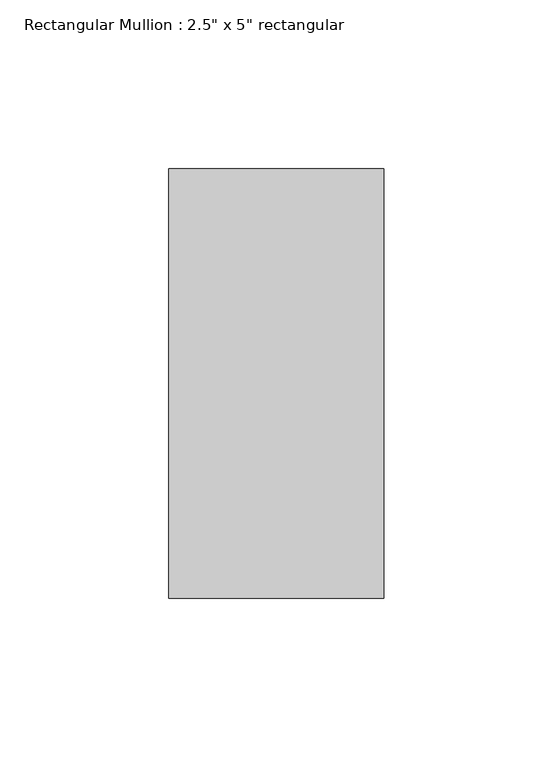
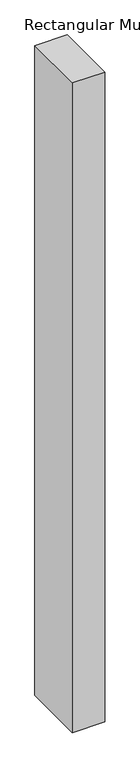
"""IFC4 building model written with IfcOpenShell, lengths in millimetres: member geometry."""

import ifcopenshell
import ifcopenshell.guid

model = None  # the IFC model being written
_history = None  # IfcOwnerHistory: only IFC2X3 demands one
_inside = {}  # id of a spatial element -> (the spatial element, [elements in it])
_under = {}  # id of a project, library or spatial element -> (it, [spatial elements below it])
_declared = {}  # id of a project -> (the project, [libraries it declares])
_typed = {}  # id of a type object -> (the type object, [elements of that type])
_made_of = {}  # id of a material, layer set ... -> (it, [elements and type objects made of it])


def new_model(schema):
    """Start an empty IFC model of exactly this schema.

    Asked for "IFC4X3", IfcOpenShell would pick the latest addendum, in which some entities
    have other attributes; the version numbers below select the first issue.
    IFC2X3 requires an IfcOwnerHistory on every rooted entity: one is made here for all.
    """
    global model, _history
    if schema == "IFC4X3":
        model = ifcopenshell.file(schema_version=(4, 3, 0, 0))
    else:
        model = ifcopenshell.file(schema=schema)
    _inside.clear()
    _under.clear()
    _declared.clear()
    _typed.clear()
    _made_of.clear()
    _history = None
    if model.schema == "IFC2X3":
        org = make("IfcOrganization", Name="unknown")
        user = make(
            "IfcPersonAndOrganization",
            ThePerson=make("IfcPerson", FamilyName="unknown"),
            TheOrganization=org,
        )
        app = make(
            "IfcApplication",
            ApplicationDeveloper=org,
            Version="unknown",
            ApplicationFullName="unknown",
            ApplicationIdentifier="unknown",
        )
        _history = make(
            "IfcOwnerHistory",
            OwningUser=user,
            OwningApplication=app,
            ChangeAction="ADDED",
            CreationDate=0,
        )
    return model


def make(cls, **values):
    """One entity of the class cls with the attributes given. An attribute that is None is left unset."""
    return model.create_entity(
        cls, **{name: value for name, value in values.items() if value is not None}
    )


def rooted(cls, **values):
    """An entity with a GlobalId (a new one), such as an element, a storey or a relation."""
    return make(cls, GlobalId=ifcopenshell.guid.new(), OwnerHistory=_history, **values)


def si_unit(unit_type, name, prefix=None):
    """IfcSIUnit, for example si_unit("LENGTHUNIT", "METRE", prefix="MILLI")."""
    return make("IfcSIUnit", UnitType=unit_type, Prefix=prefix, Name=name)


def assignment(units):
    """IfcUnitAssignment: the units of a project."""
    return None if units is None else make("IfcUnitAssignment", Units=units)


def point(xyz):
    """IfcCartesianPoint."""
    return None if xyz is None else make("IfcCartesianPoint", Coordinates=xyz)


def direction(xyz):
    """IfcDirection."""
    return None if xyz is None else make("IfcDirection", DirectionRatios=xyz)


def frame(location, z_axis=None, x_axis=None):
    """IfcAxis2Placement3D, a coordinate frame: its origin and axes. An axis left out is left unset."""
    return make(
        "IfcAxis2Placement3D",
        Location=point(location),
        Axis=direction(z_axis),
        RefDirection=direction(x_axis),
    )


def origin():
    """The frame at (0, 0, 0) with its axes left unset."""
    return frame((0.0, 0.0, 0.0))


def place(relative_to, where):
    """IfcLocalPlacement: puts the frame where relative to a parent placement (None: the world)."""
    return make(
        "IfcLocalPlacement", PlacementRelTo=relative_to, RelativePlacement=where
    )


def context(
    kind, dimensions, precision=None, world=None, true_north=None, identifier=None
):
    """IfcGeometricRepresentationContext, for example the 3D "Model" context."""
    return make(
        "IfcGeometricRepresentationContext",
        ContextIdentifier=identifier,
        ContextType=kind,
        CoordinateSpaceDimension=dimensions,
        Precision=precision,
        WorldCoordinateSystem=world,
        TrueNorth=true_north,
    )


def project(units=None, contexts=None):
    """IfcProject with its units and contexts."""
    return rooted(
        "IfcProject",
        Name="project",
        RepresentationContexts=contexts,
        UnitsInContext=assignment(units),
    )


def spatial(cls, under=None, at=None, **own):
    """A site, building, storey or space (cls), placed at a placement, below another one or the project."""
    s = rooted(cls, ObjectPlacement=at, **own)
    if under is not None:
        _under.setdefault(under.id(), (under, []))[1].append(s)
    return s


def polyline(points):
    """IfcPolyline through the points."""
    return make("IfcPolyline", Points=[point(p) for p in points])


def outline(outer, holes=None, kind="AREA"):
    """IfcArbitraryClosedProfileDef: a profile drawn as a closed curve; with holes, ...WithVoids."""
    if holes is None:
        return make("IfcArbitraryClosedProfileDef", ProfileType=kind, OuterCurve=outer)
    return make(
        "IfcArbitraryProfileDefWithVoids",
        ProfileType=kind,
        OuterCurve=outer,
        InnerCurves=holes,
    )


def extrude(swept, where, along, depth):
    """IfcExtrudedAreaSolid: the profile swept, set in the frame where, extruded along a direction by depth."""
    return make(
        "IfcExtrudedAreaSolid",
        SweptArea=swept,
        Position=where,
        ExtrudedDirection=direction(along),
        Depth=depth,
    )


def shape(context_of_items, identifier, shape_type, items):
    """IfcShapeRepresentation: the items that make up one representation, for example the "Body"."""
    return make(
        "IfcShapeRepresentation",
        ContextOfItems=context_of_items,
        RepresentationIdentifier=identifier,
        RepresentationType=shape_type,
        Items=items,
    )


def source(mapping_origin, context_of_items, identifier, shape_type, items):
    """IfcRepresentationMap: a shape defined once, which mapped items show again and again."""
    return make(
        "IfcRepresentationMap",
        MappingOrigin=mapping_origin,
        MappedRepresentation=shape(context_of_items, identifier, shape_type, items),
    )


def transform(
    local_origin,
    x_axis=None,
    y_axis=None,
    z_axis=None,
    scale=None,
    scale2=None,
    scale3=None,
    uniform=True,
):
    """IfcCartesianTransformationOperator3D, or its non-uniform kind. x_axis, y_axis, z_axis: its Axis1, 2, 3."""
    if uniform:
        return make(
            "IfcCartesianTransformationOperator3D",
            Axis1=direction(x_axis),
            Axis2=direction(y_axis),
            LocalOrigin=point(local_origin),
            Scale=scale,
            Axis3=direction(z_axis),
        )
    return make(
        "IfcCartesianTransformationOperator3DnonUniform",
        Axis1=direction(x_axis),
        Axis2=direction(y_axis),
        LocalOrigin=point(local_origin),
        Scale=scale,
        Axis3=direction(z_axis),
        Scale2=scale2,
        Scale3=scale3,
    )


def mapped(mapping_source, mapping_target):
    """IfcMappedItem: shows the shape of a source again, moved by a transform."""
    return make(
        "IfcMappedItem", MappingSource=mapping_source, MappingTarget=mapping_target
    )


def made_of(thing, what):
    """Note that an element or type object is made of a material, layer set ...; save() writes the relation."""
    if what is not None:
        _made_of.setdefault(what.id(), (what, []))[1].append(thing)
    return thing


def element(
    cls,
    number,
    at=None,
    inside=None,
    cuts=None,
    type_object=None,
    material=None,
    context=None,
    identifier="Body",
    shape_type=None,
    held_by="IfcProductDefinitionShape",
    body=None,
    shapes=None,
    **own,
):
    """One element of the class cls, such as IfcWall. Its Tag is "e" and its number.

    at: its placement. inside: the storey or other place that contains it. cuts: it is an
    opening in that element (IfcRelVoidsElement). A single representation is given by context,
    identifier, shape_type and body (its items); several are given by shapes. held_by: the class
    of the entity that holds the representations. save() writes the other relations.
    """
    e = rooted(cls, Tag="e%d" % number, ObjectPlacement=at, **own)
    if body is not None:
        shapes = [shape(context, identifier, shape_type, body)]
    if shapes is not None:
        e.Representation = make(held_by, Representations=shapes)
    if inside is not None:
        _inside.setdefault(inside.id(), (inside, []))[1].append(e)
    if cuts is not None:
        rooted(
            "IfcRelVoidsElement", RelatingBuildingElement=cuts, RelatedOpeningElement=e
        )
    if type_object is not None:
        _typed.setdefault(type_object.id(), (type_object, []))[1].append(e)
    return made_of(e, material)


def aggregate(whole, parts):
    """IfcRelAggregates: a whole, such as a stair, and the parts it consists of."""
    return rooted("IfcRelAggregates", RelatingObject=whole, RelatedObjects=parts)


def save(model, path):
    """Write the relations noted so far, then the file.

    IfcRelAggregates (storeys below a building ...), IfcRelContainedInSpatialStructure (elements
    in a storey), IfcRelDefinesByType, IfcRelAssociatesMaterial and IfcRelDeclares: one each for
    every whole, place, type object, material and project.
    """
    for whole, parts in _under.values():
        aggregate(whole, parts)
    for where, things in _inside.values():
        rooted(
            "IfcRelContainedInSpatialStructure",
            RelatedElements=things,
            RelatingStructure=where,
        )
    for kind, things in _typed.values():
        rooted("IfcRelDefinesByType", RelatedObjects=things, RelatingType=kind)
    for what, things in _made_of.values():
        rooted("IfcRelAssociatesMaterial", RelatedObjects=things, RelatingMaterial=what)
    for by, libraries in _declared.values():
        rooted("IfcRelDeclares", RelatingContext=by, RelatedDefinitions=libraries)
    model.write(path)


def member_b9c6e138(model_context):
    return source(origin(), model_context, "Body", "SweptSolid", [
        extrude(outline(polyline([(0.0, 50.8), (0.0, -76.2), (-63.5, -76.2), (-63.5, 50.8), (0.0, 50.8)])), frame((0.0, 0.0, -1348.6423077), z_axis=(0.0, 0.0, 1.0), x_axis=(1.0, 0.0, 0.0)), (0.0, 0.0, 1.0), 1348.6423077),
    ])


if __name__ == "__main__":
    model = new_model("IFC4")
    model_context = context("Model", 3, world=origin())
    ifc_project = project(units=[si_unit("LENGTHUNIT", "METRE", prefix="MILLI")], contexts=[model_context])
    site = spatial("IfcSite", under=ifc_project)
    building = spatial("IfcBuilding", under=site)
    placement = place(None, origin())
    member_shape = member_b9c6e138(model_context)
    element("IfcMember", 1, ObjectType="Rectangular Mullion : 2.5\" x 5\" rectangular", at=placement, inside=building, context=model_context, shape_type="MappedRepresentation", body=[
        mapped(member_shape, transform((0.0, 0.0, 0.0), x_axis=(1.0, 0.0, 0.0), y_axis=(0.0, 1.0, 0.0), z_axis=(0.0, 0.0, 1.0))),
    ])
    save(model, "model.ifc")
